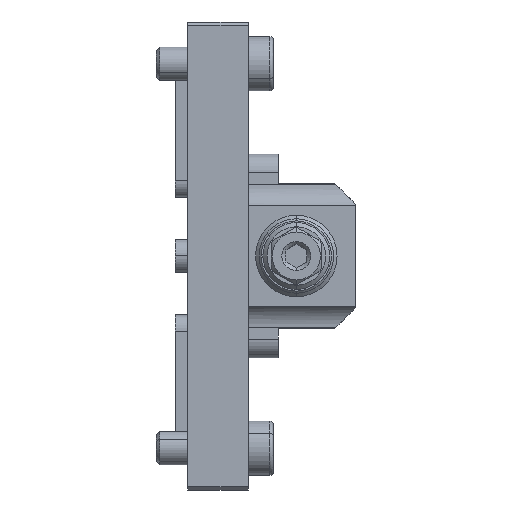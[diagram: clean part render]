
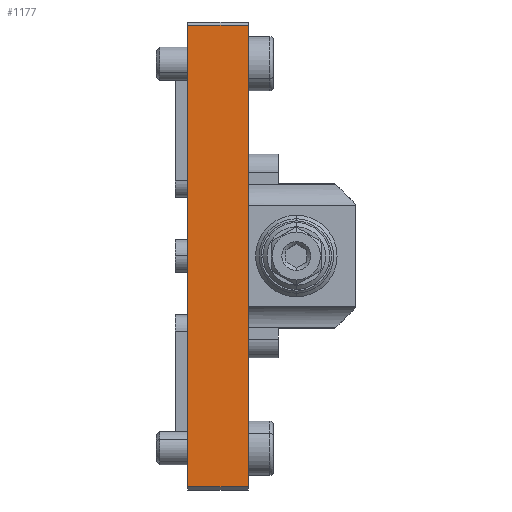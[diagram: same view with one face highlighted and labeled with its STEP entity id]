
A CAD part, left-side view. The second image highlights one B-rep face of the part: STEP entity #1177.
In plain terms, the highlighted planar face has unit normal (-1, 0, 0).
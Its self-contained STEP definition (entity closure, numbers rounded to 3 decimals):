
#211 = AXIS2_PLACEMENT_3D ( 'NONE', #9634, #13254, #13174 ) ;
#1177 = ADVANCED_FACE ( 'NONE', ( #2314 ), #15670, .T. ) ;
#1639 = VECTOR ( 'NONE', #11872, 1000. ) ;
#1875 = CARTESIAN_POINT ( 'NONE',  ( -20., 11.3, 55.2 ) ) ;
#1892 = LINE ( 'NONE', #7061, #1639 ) ;
#2314 = FACE_OUTER_BOUND ( 'NONE', #10068, .T. ) ;
#2409 = EDGE_CURVE ( 'NONE', #14743, #6871, #15154, .T. ) ;
#2882 = EDGE_CURVE ( 'NONE', #12985, #11750, #13263, .T. ) ;
#3101 = EDGE_CURVE ( 'NONE', #12985, #6871, #1892, .T. ) ;
#3538 = DIRECTION ( 'NONE',  ( 0., 1., 0. ) ) ;
#3643 = ORIENTED_EDGE ( 'NONE', *, *, #3101, .T. ) ;
#3663 = ORIENTED_EDGE ( 'NONE', *, *, #8775, .T. ) ;
#6109 = CARTESIAN_POINT ( 'NONE',  ( -20., 11.5, 55.2 ) ) ;
#6375 = CARTESIAN_POINT ( 'NONE',  ( -20., 26., -58. ) ) ;
#6871 = VERTEX_POINT ( 'NONE', #6109 ) ;
#7028 = VECTOR ( 'NONE', #3538, 1000. ) ;
#7061 = CARTESIAN_POINT ( 'NONE',  ( -20., 11.5, -56. ) ) ;
#7506 = DIRECTION ( 'NONE',  ( 0., 0., -1. ) ) ;
#8201 = CARTESIAN_POINT ( 'NONE',  ( -20., 11.3, -55.2 ) ) ;
#8407 = ORIENTED_EDGE ( 'NONE', *, *, #2409, .F. ) ;
#8775 = EDGE_CURVE ( 'NONE', #14743, #11750, #12488, .T. ) ;
#9039 = CARTESIAN_POINT ( 'NONE',  ( -20., 11.5, -55.2 ) ) ;
#9634 = CARTESIAN_POINT ( 'NONE',  ( -20., -17.9, -56. ) ) ;
#10006 = CARTESIAN_POINT ( 'NONE',  ( -20., 26., 55.2 ) ) ;
#10068 = EDGE_LOOP ( 'NONE', ( #12098, #3643, #8407, #3663 ) ) ;
#10642 = VECTOR ( 'NONE', #12828, 1000. ) ;
#11750 = VERTEX_POINT ( 'NONE', #14051 ) ;
#11872 = DIRECTION ( 'NONE',  ( 0., 0., 1. ) ) ;
#12098 = ORIENTED_EDGE ( 'NONE', *, *, #2882, .F. ) ;
#12488 = LINE ( 'NONE', #6375, #14847 ) ;
#12828 = DIRECTION ( 'NONE',  ( 0., -1., 0. ) ) ;
#12985 = VERTEX_POINT ( 'NONE', #9039 ) ;
#13174 = DIRECTION ( 'NONE',  ( 0., -1., 0. ) ) ;
#13254 = DIRECTION ( 'NONE',  ( -1., 0., 0. ) ) ;
#13263 = LINE ( 'NONE', #8201, #7028 ) ;
#14051 = CARTESIAN_POINT ( 'NONE',  ( -20., 26., -55.2 ) ) ;
#14743 = VERTEX_POINT ( 'NONE', #10006 ) ;
#14847 = VECTOR ( 'NONE', #7506, 1000. ) ;
#15154 = LINE ( 'NONE', #1875, #10642 ) ;
#15670 = PLANE ( 'NONE',  #211 ) ;
